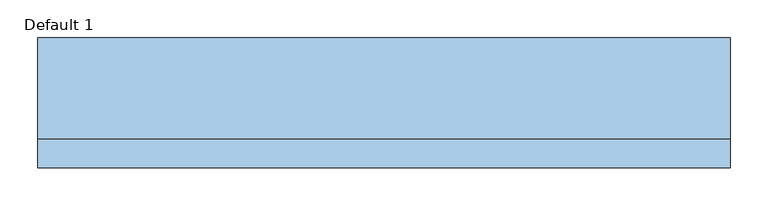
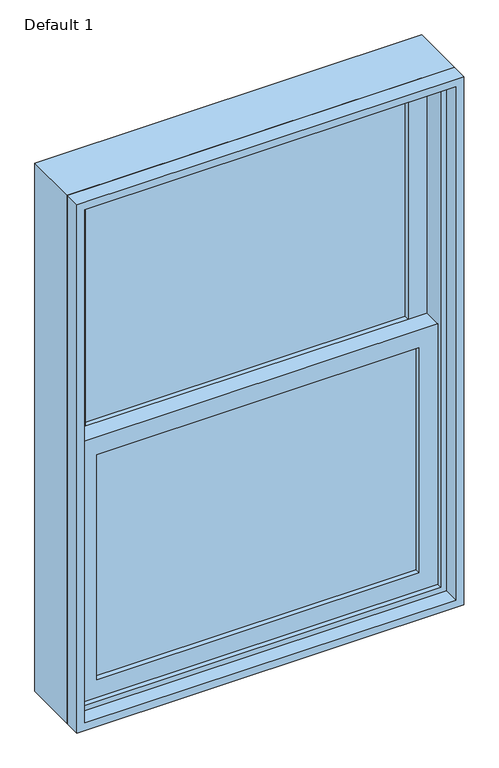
"""IFC4 building model written with IfcOpenShell, lengths in millimetres: window geometry, Planitar-Double-Hung-Single : Default 1."""

from ifc_helpers import new_model, si_unit, frame, origin, place, context, project, spatial, polyline, outline, extrude, source, transform, mapped, element, save


def default_1_04235336(model_context):
    return source(origin(), model_context, "Body", "SweptSolid", [
        extrude(outline(polyline([(381.0, 6.35), (381.0, 0.0), (-381.0, 0.0), (-381.0, 6.35), (381.0, 6.35)])), frame((0.0, 0.0, 990.6), z_axis=(0.0, 0.0, 1.0), x_axis=(1.0, 0.0, 0.0)), (0.0, 0.0, 1.0), 561.975),
        extrude(outline(polyline([(-381.0, -6.35), (381.0, -6.35), (381.0, -12.7), (-381.0, -12.7), (-381.0, -6.35)])), frame((0.0, 0.0, 990.6), z_axis=(0.0, 0.0, 1.0), x_axis=(1.0, 0.0, 0.0)), (0.0, 0.0, 1.0), 561.975),
        extrude(outline(polyline([(381.0, 50.8), (381.0, 44.45), (-381.0, 44.45), (-381.0, 50.8), (381.0, 50.8)])), frame((0.0, 0.0, 1597.025), z_axis=(0.0, 0.0, 1.0), x_axis=(1.0, 0.0, 0.0)), (0.0, 0.0, 1.0), 561.975),
        extrude(outline(polyline([(-381.0, 38.1), (381.0, 38.1), (381.0, 31.75), (-381.0, 31.75), (-381.0, 38.1)])), frame((0.0, 0.0, 1597.025), z_axis=(0.0, 0.0, 1.0), x_axis=(1.0, 0.0, 0.0)), (0.0, 0.0, 1.0), 561.975),
        extrude(outline(polyline([(1597.025, -425.45), (946.15, -425.45), (946.15, 425.45), (1597.025, 425.45), (1597.025, -425.45)]), holes=[polyline([(1552.575, 381.0), (990.6, 381.0), (990.6, -381.0), (1552.575, -381.0), (1552.575, 381.0)])]), frame((0.0, -25.4, 0.0), z_axis=(0.0, 1.0, 0.0), x_axis=(0.0, 0.0, 1.0)), (0.0, 0.0, 1.0), 44.45),
        extrude(outline(polyline([(2203.45, -425.45), (1552.575, -425.45), (1552.575, 425.45), (2203.45, 425.45), (2203.45, -425.45)]), holes=[polyline([(2159.0, 381.0), (1597.025, 381.0), (1597.025, -381.0), (2159.0, -381.0), (2159.0, 381.0)])]), frame((0.0, 19.05, 0.0), z_axis=(0.0, 1.0, 0.0), x_axis=(0.0, 0.0, 1.0)), (0.0, 0.0, 1.0), 44.45),
        extrude(outline(polyline([(2235.2, -457.2), (914.4, -457.2), (914.4, 457.2), (2235.2, 457.2), (2235.2, -457.2)]), holes=[polyline([(2203.45, 425.45), (946.15, 425.45), (946.15, -425.45), (2203.45, -425.45), (2203.45, 425.45)])]), frame((0.0, -38.1, 0.0), z_axis=(0.0, 1.0, 0.0), x_axis=(0.0, 0.0, 1.0)), (0.0, 0.0, 1.0), 133.35),
        extrude(outline(polyline([(2235.2, 457.2), (2235.2, -457.2), (914.4, -457.2), (914.4, 457.2), (2235.2, 457.2)]), holes=[polyline([(2216.15, 438.15), (933.45, 438.15), (933.45, -438.15), (2216.15, -438.15), (2216.15, 438.15)])]), frame((0.0, -76.2, 0.0), z_axis=(0.0, 1.0, 0.0), x_axis=(0.0, 0.0, 1.0)), (0.0, 0.0, 1.0), 38.1),
    ])


if __name__ == "__main__":
    model = new_model("IFC4")
    model_context = context("Model", 3, world=origin())
    ifc_project = project(units=[si_unit("LENGTHUNIT", "METRE", prefix="MILLI")], contexts=[model_context])
    site = spatial("IfcSite", under=ifc_project)
    building = spatial("IfcBuilding", under=site)
    placement = place(None, origin())
    default_1_shape = default_1_04235336(model_context)
    element("IfcWindow", 1, ObjectType="Planitar-Double-Hung-Single : Default 1", at=placement, inside=building, context=model_context, shape_type="MappedRepresentation", body=[
        mapped(default_1_shape, transform((0.0, 0.0, 0.0), x_axis=(1.0, 0.0, 0.0), y_axis=(0.0, 1.0, 0.0), z_axis=(0.0, 0.0, 1.0))),
    ])
    save(model, "model.ifc")
